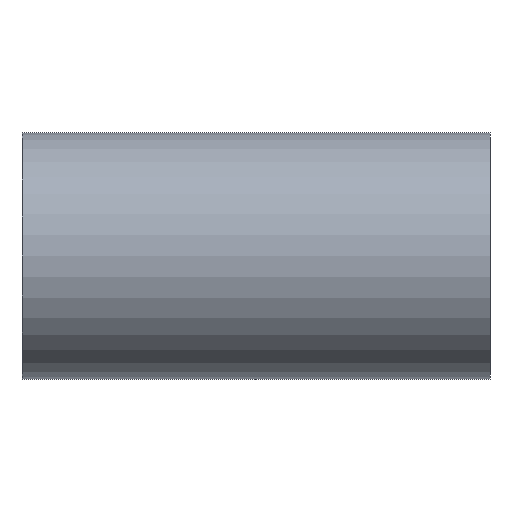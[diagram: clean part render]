
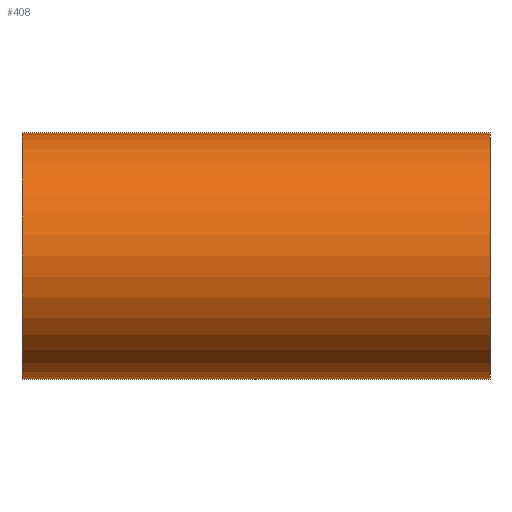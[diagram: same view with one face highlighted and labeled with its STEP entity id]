
A CAD part, front view. The second image highlights one B-rep face of the part: STEP entity #408.
In plain terms, the highlighted cylindrical face has radius 25.5 mm (diameter 51 mm), a full revolution.
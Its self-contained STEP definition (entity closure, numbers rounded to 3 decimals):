
#16=FACE_BOUND('',#102,.T.);
#17=FACE_BOUND('',#103,.T.);
#26=ELLIPSE('',#433,36.062,25.5);
#27=ELLIPSE('',#434,36.062,25.5);
#29=CYLINDRICAL_SURFACE('',#431,25.5);
#75=FACE_OUTER_BOUND('',#101,.T.);
#101=EDGE_LOOP('',(#343));
#102=EDGE_LOOP('',(#344,#345));
#103=EDGE_LOOP('',(#346));
#124=CIRCLE('',#432,25.5);
#125=CIRCLE('',#435,25.5);
#195=VERTEX_POINT('',#14072);
#196=VERTEX_POINT('',#14074);
#197=VERTEX_POINT('',#14075);
#198=VERTEX_POINT('',#14078);
#253=EDGE_CURVE('',#195,#195,#124,.T.);
#254=EDGE_CURVE('',#196,#197,#26,.T.);
#255=EDGE_CURVE('',#197,#196,#27,.T.);
#256=EDGE_CURVE('',#198,#198,#125,.T.);
#343=ORIENTED_EDGE('',*,*,#253,.F.);
#344=ORIENTED_EDGE('',*,*,#254,.T.);
#345=ORIENTED_EDGE('',*,*,#255,.T.);
#346=ORIENTED_EDGE('',*,*,#256,.F.);
#408=ADVANCED_FACE('',(#75,#16,#17),#29,.T.);
#431=AXIS2_PLACEMENT_3D('',#14071,#483,#484);
#432=AXIS2_PLACEMENT_3D('',#14073,#485,#486);
#433=AXIS2_PLACEMENT_3D('',#14076,#487,#488);
#434=AXIS2_PLACEMENT_3D('',#14077,#489,#490);
#435=AXIS2_PLACEMENT_3D('',#14079,#491,#492);
#483=DIRECTION('center_axis',(1.,0.,0.));
#484=DIRECTION('ref_axis',(0.,-1.,0.));
#485=DIRECTION('center_axis',(-1.,0.,0.));
#486=DIRECTION('ref_axis',(0.,-1.,0.));
#487=DIRECTION('center_axis',(-0.707,-0.707,0.));
#488=DIRECTION('ref_axis',(0.707,-0.707,0.));
#489=DIRECTION('center_axis',(0.707,-0.707,0.));
#490=DIRECTION('ref_axis',(0.707,0.707,0.));
#491=DIRECTION('center_axis',(1.,0.,0.));
#492=DIRECTION('ref_axis',(0.,-1.,0.));
#14071=CARTESIAN_POINT('Origin',(0.,0.,0.));
#14072=CARTESIAN_POINT('',(-48.5,25.5,0.));
#14073=CARTESIAN_POINT('Origin',(-48.5,0.,0.));
#14074=CARTESIAN_POINT('',(0.,0.,25.5));
#14075=CARTESIAN_POINT('',(0.,0.,-25.5));
#14076=CARTESIAN_POINT('Origin',(0.,0.,0.));
#14077=CARTESIAN_POINT('Origin',(0.,0.,0.));
#14078=CARTESIAN_POINT('',(48.5,25.5,0.));
#14079=CARTESIAN_POINT('Origin',(48.5,0.,0.));
